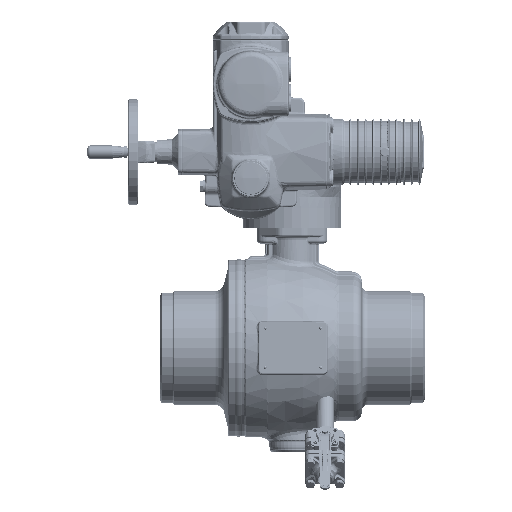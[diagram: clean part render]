
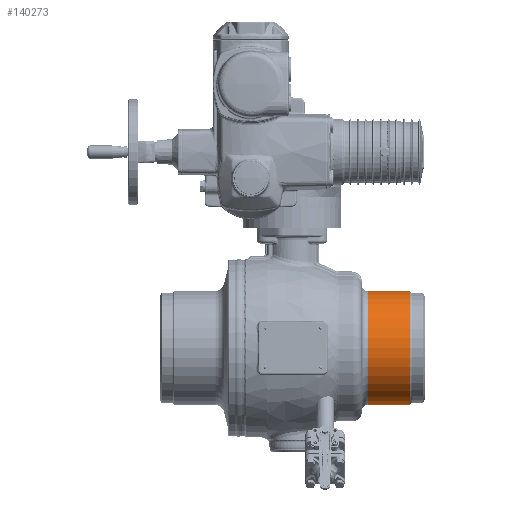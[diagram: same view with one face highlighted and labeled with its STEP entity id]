
A CAD part, top view. The second image highlights one B-rep face of the part: STEP entity #140273.
In plain terms, the highlighted cylindrical face has radius 86.5 mm (diameter 173 mm), a partial arc.
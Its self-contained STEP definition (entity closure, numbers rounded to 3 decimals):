
#39405=CARTESIAN_POINT('',(179.15,0.,0.));
#39406=DIRECTION('',(-1.,0.,0.));
#39407=DIRECTION('',(0.,0.,-1.));
#39408=AXIS2_PLACEMENT_3D('',#39405,#39406,#39407);
#39410=DIRECTION('',(-1.,0.,0.));
#39411=VECTOR('',#39410,64.15);
#39412=CARTESIAN_POINT('',(179.15,0.,-86.5));
#39413=LINE('',#39412,#39411);
#39414=CARTESIAN_POINT('',(115.,0.,0.));
#39415=DIRECTION('',(1.,0.,0.));
#39416=DIRECTION('',(0.,0.,1.));
#39417=AXIS2_PLACEMENT_3D('',#39414,#39415,#39416);
#39419=DIRECTION('',(-1.,0.,0.));
#39420=VECTOR('',#39419,64.15);
#39421=CARTESIAN_POINT('',(179.15,0.,86.5));
#39422=LINE('',#39421,#39420);
#64602=CARTESIAN_POINT('',(115.,0.,86.5));
#64603=CARTESIAN_POINT('',(115.,0.,-86.5));
#64604=VERTEX_POINT('',#64602);
#64605=VERTEX_POINT('',#64603);
#64698=CARTESIAN_POINT('',(179.15,0.,86.5));
#64699=CARTESIAN_POINT('',(179.15,0.,-86.5));
#64700=VERTEX_POINT('',#64698);
#64701=VERTEX_POINT('',#64699);
#140262=CARTESIAN_POINT('',(218.35,0.,0.));
#140263=DIRECTION('',(-1.,0.,0.));
#140264=DIRECTION('',(0.,0.,1.));
#140265=AXIS2_PLACEMENT_3D('',#140262,#140263,#140264);
#140266=CYLINDRICAL_SURFACE('',#140265,86.5);
#140267=ORIENTED_EDGE('',*,*,#140256,.F.);
#140268=ORIENTED_EDGE('',*,*,#140172,.T.);
#140269=ORIENTED_EDGE('',*,*,#140142,.F.);
#140270=ORIENTED_EDGE('',*,*,#140169,.F.);
#140271=EDGE_LOOP('',(#140267,#140268,#140269,#140270));
#140272=FACE_OUTER_BOUND('',#140271,.F.);
#140273=ADVANCED_FACE('',(#140272),#140266,.T.);
#39409=CIRCLE('',#39408,86.5);
#39418=CIRCLE('',#39417,86.5);
#140142=EDGE_CURVE('',#64604,#64605,#39418,.T.);
#140169=EDGE_CURVE('',#64700,#64604,#39422,.T.);
#140172=EDGE_CURVE('',#64701,#64605,#39413,.T.);
#140256=EDGE_CURVE('',#64701,#64700,#39409,.T.);
